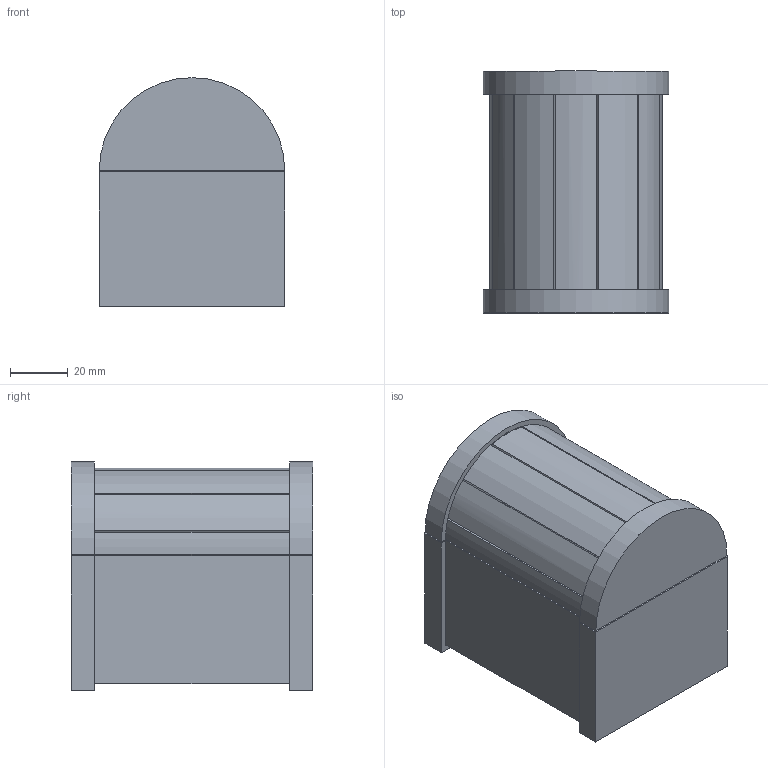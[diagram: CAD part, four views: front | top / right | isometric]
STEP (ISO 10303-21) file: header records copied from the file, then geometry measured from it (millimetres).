
FILE_DESCRIPTION(/* description */ (''),/* implementation_level */ '2;1');
FILE_NAME(/* name */ (''),/* time_stamp */ (''),/* author */ (''),/* organization */ (''),/* preprocessor_version */ 'ST-DEVELOPER v18.1',/* originating_system */ 'Autodesk Translation Framework v10.14.0.1471',/* authorisation */ '');
FILE_SCHEMA (('AUTOMOTIVE_DESIGN { 1 0 10303 214 3 1 1 }'));
Length unit declared in the file: millimetre
Products named in the file (1): Easy Print Treasure Chest Puzzle
Bounding box: 64.5 x 84 x 79.5 mm (x, y, z)
Volume: 172212.6 mm3; surface area: 97682.1 mm2
Topology: 10 solids, 10 shells, 410 faces, 1083 edges, 693 vertices
Faces by surface type: plane 327, cylinder 47, cone 36
Full cylindrical faces by diameter (mm): 2 x3
Entity records: 12580 total; most frequent: CARTESIAN_POINT 2379, ORIENTED_EDGE 2156, DIRECTION 1997, EDGE_CURVE 1078, LINE 887, VECTOR 887, VERTEX_POINT 693, AXIS2_PLACEMENT_3D 555
